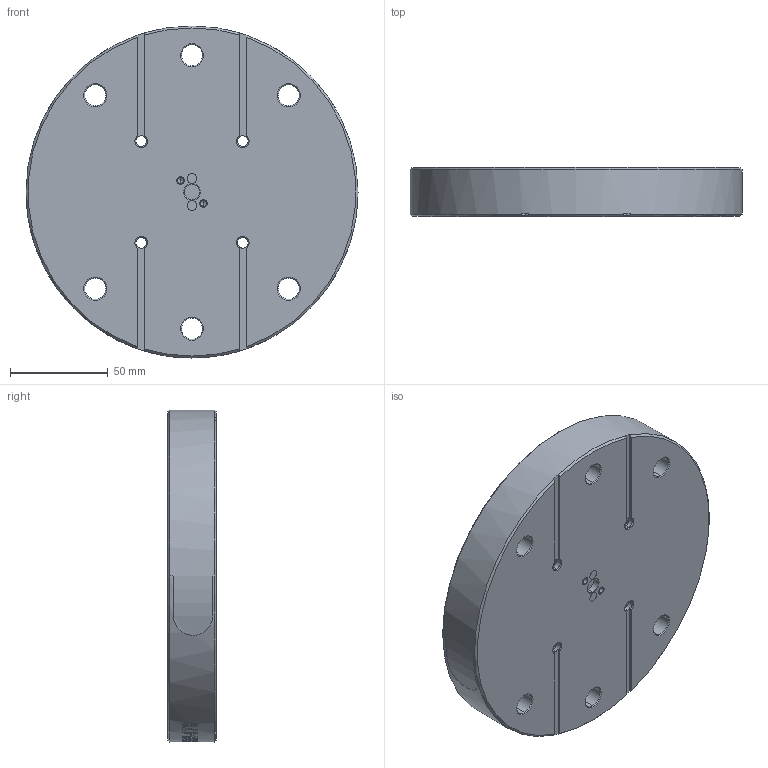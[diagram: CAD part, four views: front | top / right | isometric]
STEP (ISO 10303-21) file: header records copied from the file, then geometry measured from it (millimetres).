
FILE_DESCRIPTION((''),'2;1');
FILE_NAME('TS52-170_1','2024-08-12T09:26:50',('XF'),(''),'CREO PARAMETRIC BY PTC INC, 2022073','CREO PARAMETRIC BY PTC INC, 2022073','');
FILE_SCHEMA(('CONFIG_CONTROL_DESIGN'));
Length unit declared in the file: millimetre
Products named in the file (1): TS52-170_1
Bounding box: 170 x 25 x 170 mm (x, y, z)
Volume: 523051.9 mm3; surface area: 69516.9 mm2
Topology: 1 solids, 5 shells, 417 faces, 1130 edges, 743 vertices
Faces by surface type: extrusion 136, plane 110, cylinder 93, cone 70, torus 8
Entity records: 14951 total; most frequent: CARTESIAN_POINT 4783, ORIENTED_EDGE 2220, DIRECTION 1803, EDGE_CURVE 1118, VERTEX_POINT 743, AXIS2_PLACEMENT_3D 616, VECTOR 571, B_SPLINE_CURVE_WITH_KNOTS 485
